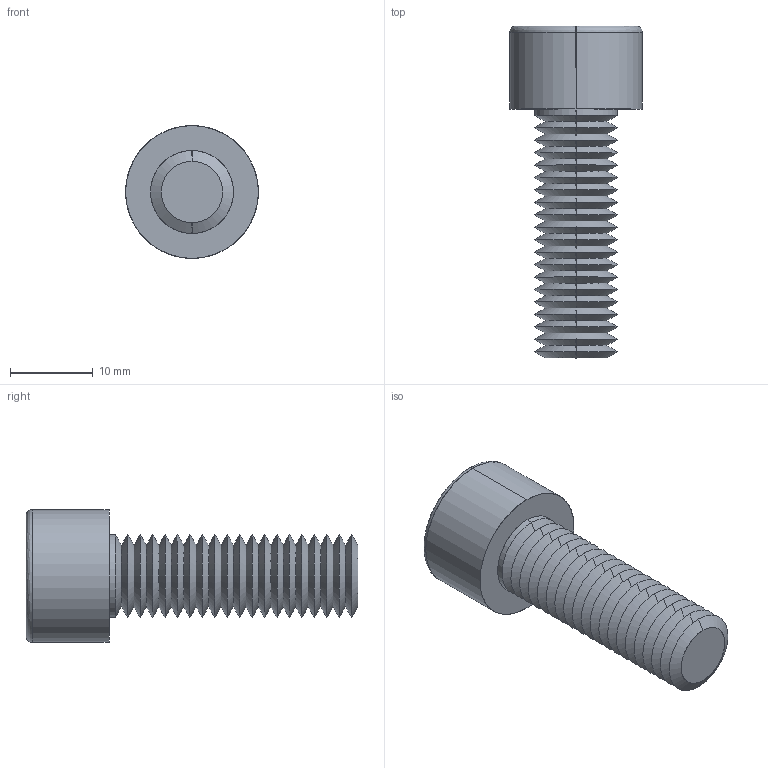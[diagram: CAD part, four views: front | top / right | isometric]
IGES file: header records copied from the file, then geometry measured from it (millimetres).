
Start section: SolidWorks IGES file using analytic representation for surfaces
Global section: file name: C:\Users\ianosborn\Desktop\N0007.91N_v2\N0007.91N_v2_20250519_IGES\91N.100.0300.igs; native system: SolidWorks 2019; preprocessor: SolidWorks 2019; author: IanOsborn; date: 250520.095520; units: millimetre
Bounding box: 16 x 40 x 16 mm (x, y, z)
Surface area: 2702.4 mm2 (no closed solid volume)
Topology: 0 solids, 0 shells, 108 faces, 653 edges, 651 vertices
Faces by surface type: revolution 91, bspline 17
